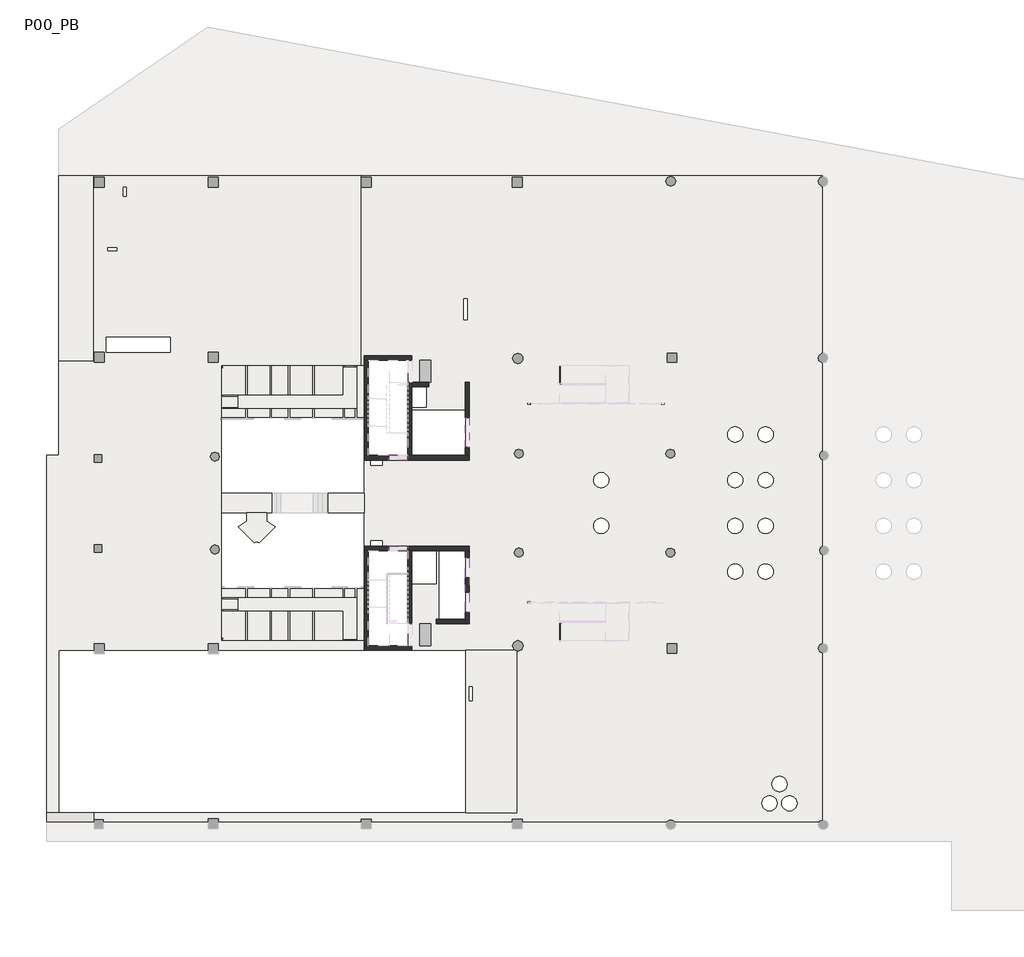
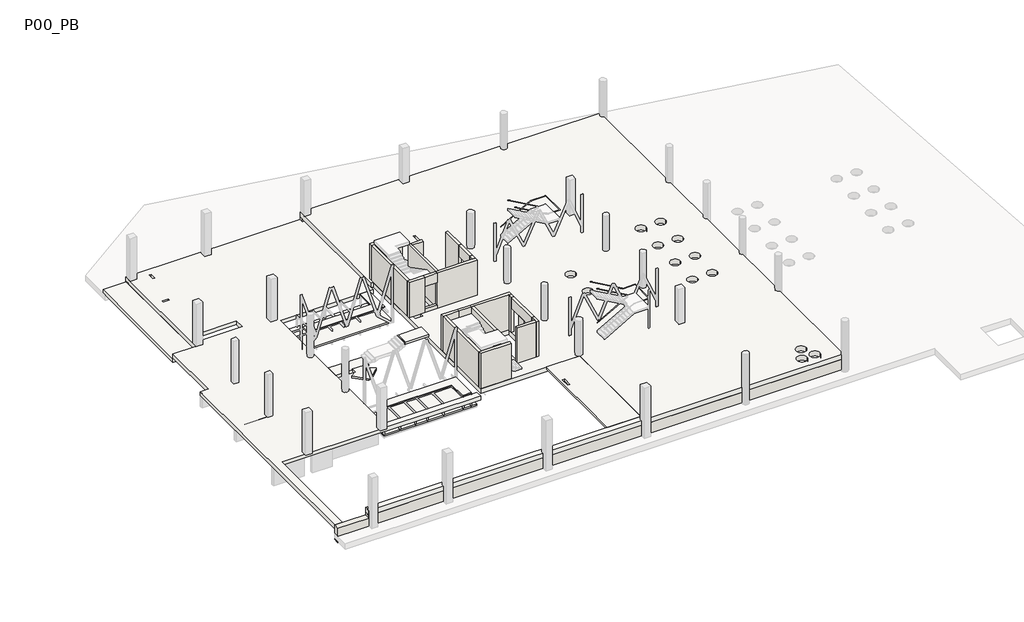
# One storey, part 1 of 7: 29 walls, 11 slabs.
"""IFC4 building model written with IfcOpenShell, lengths in millimetres."""

from ifc_helpers import new_model, si_unit, point, frame, frame_2d, origin, place, context, project, spatial, polyline, circle_curve, trimmed, segment, composite_curve, outline, extrude, faceted_brep, element, save

model = new_model("IFC4")

# Units and contexts
model_context = context("Model", 3, world=origin())
ifc_project = project(units=[si_unit("LENGTHUNIT", "METRE", prefix="MILLI")], contexts=[model_context])

# Site, building, storey
site = spatial("IfcSite", under=ifc_project)
building = spatial("IfcBuilding", under=site)
storey = spatial("IfcBuildingStorey", under=building, Name="P00_PB", Elevation=6330.0)

# Slabs
placement = place(None, origin())
element("IfcSlab", 1, ObjectType="Forjat_Llosa-Formigo-400", at=placement, inside=storey, context=model_context, shape_type="SweptSolid", body=[
    extrude(outline(polyline([(-33717.5141758, 13789.8966063), (-33717.5141758, 25989.9950349), (-31415.2957322, 25989.9950349), (-31415.2957322, 13789.8966053), (-33717.5141758, 13789.8966063)])), frame((0.0, 0.0, 5430.0), z_axis=(0.0, 0.0, 1.0), x_axis=(1.0, 0.0, 0.0)), (0.0, 0.0, 1.0), 400.0),
])
element("IfcSlab", 2, ObjectType="Forjat_Llosa-Formigo-400", at=placement, inside=storey, context=model_context, shape_type="Brep", body=[
    faceted_brep([(-13415.462941, 14164.8951015, 5930.0), (-13640.3216429, 14164.8951015, 5930.0), (-13640.3216429, 13539.4926294, 5930.0), (-23041.1605166, 13539.4926294, 5930.0), (-23041.1563988, -4560.5863355, 5930.0), (-13640.3216429, -4560.5866946, 5930.0), (-13640.3216429, -5185.0959668, 5930.0), (-23241.1835957, -5185.0959668, 5930.0), (-23941.1835957, -5185.0959668, 5930.0), (-33717.5141758, -5185.0959668, 5930.0), (-33717.5141758, -15835.6038397, 5930.0), (-34517.5141758, -15835.6200374, 5930.0), (-34517.5141758, -5185.1039418, 5930.0), (-34517.5141758, -4885.1039418, 5930.0), (-34517.5141758, 7614.8960687, 5930.0), (-33717.5141758, 7614.8960687, 5930.0), (-33717.5141758, 13789.8966063, 5930.0), (-31415.2957364, 13789.8966053, 5930.0), (-31415.2957322, 25989.9950234, 5930.0), (-13415.4630194, 25989.9950234, 5930.0), (-30611.0997857, 14389.4127853, 5930.0), (-26383.0681473, 14389.4127853, 5930.0), (-26383.0681473, 15389.412783, 5930.0), (-30611.0997857, 15389.4127852, 5930.0), (-29894.8189953, 21257.0422309, 5930.0), (-30494.8189944, 21257.0422309, 5930.0), (-30494.8189944, 21057.0422316, 5930.0), (-29894.8189953, 21057.0422316, 5930.0), (-29289.6172828, 25240.3980278, 5930.0), (-29489.6172812, 25240.3980292, 5930.0), (-29489.6172812, 24640.3980294, 5930.0), (-29289.6172828, 24640.3980294, 5930.0), (-13415.462941, 14164.8951015, 6330.0), (-13415.4630194, 25989.9950234, 6330.0), (-31415.2957322, 25989.9950234, 6330.0), (-31415.2957364, 13789.8966053, 6330.0), (-33717.5141758, 13789.8966063, 6330.0), (-33717.5141758, 7614.8960687, 6330.0), (-34517.5141758, 7614.8960687, 6330.0), (-34517.5141758, -15835.6200374, 6330.0), (-33717.5141758, -15835.6038397, 6330.0), (-33717.5141758, -5185.0959668, 6330.0), (-23941.1835957, -5185.0959668, 6330.0), (-23241.1835957, -5185.0959668, 6330.0), (-13640.3216429, -5185.0959668, 6330.0), (-13640.3216429, -4560.5866946, 6330.0), (-23041.1563988, -4560.5863355, 6330.0), (-23041.1605166, 13539.4926294, 6330.0), (-13640.3216429, 13539.4926294, 6330.0), (-13640.3216429, 14164.8951015, 6330.0), (-30611.0997857, 14389.4127853, 6330.0), (-30611.0997857, 15389.4127852, 6330.0), (-26383.0681473, 15389.412783, 6330.0), (-26383.0681473, 14389.4127853, 6330.0), (-29894.8189953, 21257.0422309, 6330.0), (-29894.8189953, 21057.0422316, 6330.0), (-30494.8189944, 21057.0422316, 6330.0), (-30494.8189944, 21257.0422309, 6330.0), (-29289.6172828, 25240.3980278, 6330.0), (-29289.6172828, 24640.3980294, 6330.0), (-29489.6172812, 24640.3980294, 6330.0), (-29489.6172812, 25240.3980292, 6330.0)], [[[0, 1, 2, 3, 4, 5, 6, 7, 8, 9, 10, 11, 12, 13, 14, 15, 16, 17, 18, 19], [20, 21, 22, 23], [24, 25, 26, 27], [28, 29, 30, 31]], [[32, 33, 34, 35, 36, 37, 38, 39, 40, 41, 42, 43, 44, 45, 46, 47, 48, 49], [50, 51, 52, 53], [54, 55, 56, 57], [58, 59, 60, 61]], [[1, 0, 32, 49]], [[4, 3, 47, 46]], [[9, 8, 7, 6, 44, 43, 42, 41]], [[10, 9, 41, 40]], [[19, 18, 34, 33]], [[0, 19, 33, 32]], [[2, 1, 49, 48]], [[3, 2, 48, 47]], [[17, 16, 36, 35]], [[18, 17, 35, 34]], [[21, 20, 50, 53]], [[22, 21, 53, 52]], [[23, 22, 52, 51]], [[20, 23, 51, 50]], [[11, 10, 40, 39]], [[14, 13, 12, 11, 39, 38]], [[15, 14, 38, 37]], [[16, 15, 37, 36]], [[25, 24, 54, 57]], [[26, 25, 57, 56]], [[27, 26, 56, 55]], [[24, 27, 55, 54]], [[29, 28, 58, 61]], [[30, 29, 61, 60]], [[31, 30, 60, 59]], [[28, 31, 59, 58]], [[5, 4, 46, 45]], [[6, 5, 45, 44]]]),
])
element("IfcSlab", 3, ObjectType="Forjat_Llosa-Formigo-500", at=placement, inside=storey, context=model_context, shape_type="SweptSolid", body=[
    extrude(outline(polyline([(16434.7068512, -16434.588401), (-31390.3343784, -16435.5567211), (-31390.3343798, -15835.1021834), (-3640.7876105, -15835.1021939), (-3640.7876105, -5185.1064832), (-13640.2930975, -5185.1067242), (-13640.296314, 13539.3308237), (-13840.4544924, 13539.3342688), (-13840.4586139, 25989.9950039), (16434.2096972, 25989.9950039), (16434.7068512, -16434.588401)]), holes=[polyline([(-10790.2146087, -4885.1039312), (-10790.2146087, 1364.8960692), (-13390.3216429, 1364.8960692), (-13390.3216429, -4885.1039312), (-10790.2146087, -4885.1039312)]), polyline([(-8915.3273673, -795.1004405), (-8915.3273673, 1364.8960692), (-10540.2146087, 1364.8960692), (-10540.2146087, -795.1004405), (-8915.3273673, -795.1004405)]), polyline([(-7015.32737, -3135.1012912), (-7015.32737, 1364.8960692), (-8715.3273692, 1364.8960692), (-8715.3273692, -3135.1012912), (-7015.32737, -3135.1012912)]), polyline([(-10790.2146087, 13864.8960677), (-13390.3216429, 13864.8960677), (-13390.3216429, 7614.8960673), (-10790.2146087, 7614.8960673), (-10790.2146087, 13864.8960677)]), polyline([(-7015.3216444, 10594.8839421), (-10540.2146087, 10594.8839421), (-10540.2146087, 7614.8960673), (-7015.3216444, 7614.8960673), (-7015.3216444, 10594.8839421)]), polyline([(-9575.3241515, 12114.8934277), (-10540.2146087, 12114.8934277), (-10540.2146087, 10794.8973525), (-9575.3241515, 10794.8973525), (-9575.3241515, 12114.8934277)]), composite_curve([segment(trimmed(circle_curve(frame_2d((10709.7788109, -10.2137645)), 500.0000085), [point((10209.7788024, -10.2137645))], [point((11209.7788193, -10.2137645))], True, "CARTESIAN"), True, "CONTINUOUS"), segment(trimmed(circle_curve(frame_2d((10709.7788109, -10.2137645)), 500.0000085), [point((11209.7788193, -10.2137645))], [point((10209.7788024, -10.2137645))], True, "CARTESIAN"), True, "CONTINUOUS")], self_intersect=False), composite_curve([segment(trimmed(circle_curve(frame_2d((12709.7788146, -10.2137636)), 499.9999951), [point((12209.7788195, -10.2137636))], [point((13209.7788097, -10.2137636))], True, "CARTESIAN"), True, "CONTINUOUS"), segment(trimmed(circle_curve(frame_2d((12709.7788146, -10.2137636)), 499.9999951), [point((13209.7788097, -10.2137636))], [point((12209.7788195, -10.2137636))], True, "CARTESIAN"), True, "CONTINUOUS")], self_intersect=False), composite_curve([segment(trimmed(circle_curve(frame_2d((10709.7788168, 2989.7862398)), 500.0000085), [point((10209.7788083, 2989.7862398))], [point((11209.7788252, 2989.7862398))], True, "CARTESIAN"), True, "CONTINUOUS"), segment(trimmed(circle_curve(frame_2d((10709.7788168, 2989.7862398)), 500.0000085), [point((11209.7788252, 2989.7862398))], [point((10209.7788083, 2989.7862398))], True, "CARTESIAN"), True, "CONTINUOUS")], self_intersect=False), composite_curve([segment(trimmed(circle_curve(frame_2d((12709.7788205, 2989.7862406)), 499.9999951), [point((12209.7788253, 2989.7862406))], [point((13209.7788156, 2989.7862406))], True, "CARTESIAN"), True, "CONTINUOUS"), segment(trimmed(circle_curve(frame_2d((12709.7788205, 2989.7862406)), 499.9999951), [point((13209.7788156, 2989.7862406))], [point((12209.7788253, 2989.7862406))], True, "CARTESIAN"), True, "CONTINUOUS")], self_intersect=False), composite_curve([segment(trimmed(circle_curve(frame_2d((10709.7788128, 5989.7862352)), 500.0000085), [point((10209.7788043, 5989.7862352))], [point((11209.7788212, 5989.7862352))], True, "CARTESIAN"), True, "CONTINUOUS"), segment(trimmed(circle_curve(frame_2d((10709.7788128, 5989.7862352)), 500.0000085), [point((11209.7788212, 5989.7862352))], [point((10209.7788043, 5989.7862352))], True, "CARTESIAN"), True, "CONTINUOUS")], self_intersect=False), composite_curve([segment(trimmed(circle_curve(frame_2d((12709.7788165, 5989.786236)), 499.9999951), [point((12209.7788214, 5989.786236))], [point((13209.7788117, 5989.786236))], True, "CARTESIAN"), True, "CONTINUOUS"), segment(trimmed(circle_curve(frame_2d((12709.7788165, 5989.786236)), 499.9999951), [point((13209.7788117, 5989.786236))], [point((12209.7788214, 5989.786236))], True, "CARTESIAN"), True, "CONTINUOUS")], self_intersect=False), composite_curve([segment(trimmed(circle_curve(frame_2d((10709.7788165, 8989.7862344)), 500.0000085), [point((10209.778808, 8989.7862344))], [point((11209.7788249, 8989.7862344))], True, "CARTESIAN"), True, "CONTINUOUS"), segment(trimmed(circle_curve(frame_2d((10709.7788165, 8989.7862344)), 500.0000085), [point((11209.7788249, 8989.7862344))], [point((10209.778808, 8989.7862344))], True, "CARTESIAN"), True, "CONTINUOUS")], self_intersect=False), composite_curve([segment(trimmed(circle_curve(frame_2d((12709.7788202, 8989.7862352)), 499.9999951), [point((12209.7788251, 8989.7862352))], [point((13209.7788153, 8989.7862352))], True, "CARTESIAN"), True, "CONTINUOUS"), segment(trimmed(circle_curve(frame_2d((12709.7788202, 8989.7862352)), 499.9999951), [point((13209.7788153, 8989.7862352))], [point((12209.7788251, 8989.7862352))], True, "CARTESIAN"), True, "CONTINUOUS")], self_intersect=False), polyline([(-6900.2939556, 17917.6304307), (-7108.3213631, 17917.6304307), (-7108.3213631, 16519.3296688), (-6900.2939556, 16519.3296688), (-6900.2939556, 17917.6304307)]), polyline([(-12465.3183689, 7314.889142), (-13215.3183665, 7314.889142), (-13215.3183665, 6964.889144), (-12465.3183689, 6964.889144), (-12465.3183689, 7314.889142)]), polyline([(-12465.3183669, 2014.8972615), (-13215.3183695, 2014.8972615), (-13215.3183695, 1664.8972602), (-12465.3183669, 1664.8972602), (-12465.3183669, 2014.8972615)]), composite_curve([segment(trimmed(circle_curve(frame_2d((1909.1795935, 5989.6531787)), 500.0000085), [point((1409.1795851, 5989.6531787))], [point((2409.179602, 5989.6531787))], True, "CARTESIAN"), True, "CONTINUOUS"), segment(trimmed(circle_curve(frame_2d((1909.1795935, 5989.6531787)), 500.0000085), [point((2409.179602, 5989.6531787))], [point((1409.1795851, 5989.6531787))], True, "CARTESIAN"), True, "CONTINUOUS")], self_intersect=False), composite_curve([segment(trimmed(circle_curve(frame_2d((1909.1795935, 2989.8983731)), 500.0000085), [point((1409.1795851, 2989.8983731))], [point((2409.179602, 2989.8983731))], True, "CARTESIAN"), True, "CONTINUOUS"), segment(trimmed(circle_curve(frame_2d((1909.1795935, 2989.8983731)), 500.0000085), [point((2409.179602, 2989.8983731))], [point((1409.1795851, 2989.8983731))], True, "CARTESIAN"), True, "CONTINUOUS")], self_intersect=False), composite_curve([segment(trimmed(circle_curve(frame_2d((12967.467369, -15227.8059155)), 500.0), [point((12467.467369, -15227.8059155))], [point((13467.467369, -15227.8059155))], True, "CARTESIAN"), True, "CONTINUOUS"), segment(trimmed(circle_curve(frame_2d((12967.467369, -15227.8059155)), 500.0), [point((13467.467369, -15227.8059155))], [point((12467.467369, -15227.8059155))], True, "CARTESIAN"), True, "CONTINUOUS")], self_intersect=False), composite_curve([segment(trimmed(circle_curve(frame_2d((14273.3697299, -15227.8059234)), 500.0), [point((14773.3697299, -15227.8059234))], [point((13773.3697299, -15227.8059234))], True, "CARTESIAN"), True, "CONTINUOUS"), segment(trimmed(circle_curve(frame_2d((14273.3697299, -15227.8059234)), 500.0), [point((13773.3697299, -15227.8059234))], [point((14773.3697299, -15227.8059234))], True, "CARTESIAN"), True, "CONTINUOUS")], self_intersect=False), composite_curve([segment(trimmed(circle_curve(frame_2d((13620.418188, -13964.2705682)), 500.0), [point((14120.418188, -13964.2705682))], [point((13120.418188, -13964.2705682))], True, "CARTESIAN"), True, "CONTINUOUS"), segment(trimmed(circle_curve(frame_2d((13620.418188, -13964.2705682)), 500.0), [point((13120.418188, -13964.2705682))], [point((14120.418188, -13964.2705682))], True, "CARTESIAN"), True, "CONTINUOUS")], self_intersect=False)]), frame((0.0, 0.0, 6600.0), z_axis=(0.0, 0.0, 1.0), x_axis=(1.0, 0.0, 0.0)), (0.0, 0.0, 1.0), 500.0),
])
element("IfcSlab", 4, ObjectType="Forjat_Llosa-Formigo-200", at=placement, inside=storey, context=model_context, shape_type="SweptSolid", body=[
    extrude(outline(polyline([(-3640.7876105, -5185.1064832), (-3640.7876105, -15835.1021939), (-6995.3215622, -15835.1021926), (-6995.3215602, -5185.106564), (-3640.7876105, -5185.1064832)]), holes=[polyline([(-6557.2945116, -7582.1760673), (-6765.3215587, -7582.1760673), (-6765.3215587, -8498.2096027), (-6557.2945116, -8498.2096027), (-6557.2945116, -7582.1760673)])]), frame((0.0, 0.0, 6900.0), z_axis=(0.0, 0.0, 1.0), x_axis=(1.0, 0.0, 0.0)), (0.0, 0.0, 1.0), 200.0),
])
element("IfcSlab", 5, ObjectType="Forjat_Llosa-Formigo-300", at=placement, inside=storey, context=model_context, shape_type="SweptSolid", body=[
    extrude(outline(polyline([(-19703.873546, 5139.8961327), (-19703.8735473, 3839.8960682), (-23041.1837398, 3839.8960682), (-23041.1840354, 5139.8960682), (-19703.873546, 5139.8961327)])), frame((0.0, 0.0, 6030.0), z_axis=(0.0, 0.0, 1.0), x_axis=(1.0, 0.0, 0.0)), (0.0, 0.0, 1.0), 300.0),
])
element("IfcSlab", 6, ObjectType="Forjat_Llosa-Formigo-200", at=placement, inside=storey, context=model_context, shape_type="SweptSolid", body=[
    extrude(outline(polyline([(-16083.8735458, 3839.8960682), (-16083.8735458, 5139.8962028), (-13640.2948711, 5139.8962028), (-13640.2946478, 3839.8960682), (-16083.8735458, 3839.8960682)])), frame((0.0, 0.0, 7210.0), z_axis=(0.0, 0.0, 1.0), x_axis=(1.0, 0.0, 0.0)), (0.0, 0.0, 1.0), 200.0),
])
element("IfcSlab", 7, ObjectType="Forjat_Llosa-Formigo-200", at=placement, inside=storey, context=model_context, shape_type="SweptSolid", body=[
    extrude(outline(composite_curve([segment(polyline([(-21363.8688005, 3839.896053), (-20043.8735817, 3839.8960834), (-20043.873802, 3312.1045462)]), True, "CONTINUOUS"), segment(trimmed(circle_curve(frame_2d((-20703.874426, 1707.5409181)), 1735.000075), [point((-20043.873802, 3312.1045462))], [point((-19481.4925498, 2938.803607))], False, "CARTESIAN"), True, "CONTINUOUS"), segment(polyline([(-19481.4925498, 2938.803607), (-20542.8818933, 1869.6944526)]), True, "CONTINUOUS"), segment(trimmed(circle_curve(frame_2d((-20703.8740218, 1707.5407826)), 228.5000615), [point((-20542.8818933, 1869.6944526))], [point((-20866.0276916, 1868.5329113))], True, "CARTESIAN"), True, "CONTINUOUS"), segment(polyline([(-20866.0276916, 1868.5329113), (-21935.1372518, 2929.9226563)]), True, "CONTINUOUS"), segment(trimmed(circle_curve(frame_2d((-20703.874426, 1707.5409181)), 1735.000075), [point((-21935.1372518, 2929.9226563))], [point((-21363.874066, 3312.1049509))], False, "CARTESIAN"), True, "CONTINUOUS"), segment(polyline([(-21363.874066, 3312.1049509), (-21363.8688005, 3839.896053)]), True, "CONTINUOUS")], self_intersect=False)), frame((0.0, 0.0, 6230.0), z_axis=(0.0, 0.0, 1.0), x_axis=(1.0, 0.0, 0.0)), (0.0, 0.0, 1.0), 200.0),
])
element("IfcSlab", 8, ObjectType="Forjat_Llosa-Formigo-150", at=placement, inside=storey, context=model_context, shape_type="SweptSolid", body=[
    extrude(outline(polyline([(-23041.1605166, 13539.4926294), (-13640.3216429, 13539.4926294), (-13640.3216429, 10115.3788981), (-23041.1597376, 10115.3791966), (-23041.1605166, 13539.4926294)])), frame((0.0, 0.0, 4940.0), z_axis=(0.0, 0.0, 1.0), x_axis=(1.0, 0.0, 0.0)), (0.0, 0.0, 1.0), 150.0),
])
element("IfcSlab", 9, ObjectType="Forjat_Llosa-Relliga-100", at=placement, inside=storey, context=model_context, shape_type="SweptSolid", body=[
    extrude(outline(polyline([(-21915.4459309, -2583.0874625), (-21915.4459314, -1728.0871839), (-14149.4459331, -1728.0871839), (-14149.4459331, -4439.621344), (-15031.4459326, -4439.621344), (-15031.4459326, -2583.0874625), (-21915.4459309, -2583.0874625)])), frame((0.0, 0.0, 6330.0), z_axis=(0.0, 0.0, 1.0), x_axis=(1.0, 0.0, 0.0)), (0.0, 0.0, 1.0), 100.0),
])
element("IfcSlab", 10, ObjectType="Forjat_Llosa-Relliga-100", at=placement, inside=storey, context=model_context, shape_type="SweptSolid", body=[
    extrude(outline(polyline([(-21915.4459309, 11562.8793206), (-15031.4459326, 11562.8793206), (-15031.4459326, 13419.4132021), (-14149.4459331, 13419.4132021), (-14149.4459331, 10707.879042), (-21915.4459314, 10707.879042), (-21915.4459309, 11562.8793206)])), frame((0.0, 0.0, 6330.0), z_axis=(0.0, 0.0, 1.0), x_axis=(1.0, 0.0, 0.0)), (0.0, 0.0, 1.0), 100.0),
])
element("IfcSlab", 11, ObjectType="Forjat_Llosa-Formigo-150", at=placement, inside=storey, context=model_context, shape_type="SweptSolid", body=[
    extrude(outline(polyline([(-23041.1605166, -4559.7004929), (-23041.1597376, -1135.5870602), (-13640.3216429, -1135.5867616), (-13640.3216429, -4559.7004929), (-23041.1605166, -4559.7004929)])), frame((0.0, 0.0, 4940.0), z_axis=(0.0, 0.0, 1.0), x_axis=(1.0, 0.0, 0.0)), (0.0, 0.0, 1.0), 150.0),
])

# Walls
element("IfcWall", 12, ObjectType="0_Muro Concreto_250", at=placement, inside=storey, context=model_context, shape_type="Brep", body=[
    faceted_brep([(-13640.3216429, 13864.8960687, 7100.0), (-13640.3216429, 7614.8960673, 7100.0), (-13640.3216429, 7614.8960673, 10860.0), (-13640.3216429, 13539.4134441, 10860.0), (-13640.3216429, 13864.8960687, 10860.0), (-13390.3216429, 13864.8960687, 7100.0), (-13390.3216429, 13864.8960687, 10610.0), (-13390.3216429, 13864.8960687, 10860.0), (-13390.3216429, 13539.4134441, 10860.0), (-13390.3216429, 7614.8960673, 10860.0), (-13390.3216429, 7614.8960673, 7100.0)], [[[0, 1, 2, 3, 4]], [[5, 6, 7, 8, 9, 10]], [[1, 0, 5, 10]], [[4, 3, 2, 9, 8, 7]], [[0, 4, 7, 6, 5]], [[2, 1, 10, 9]]]),
])
element("IfcWall", 13, ObjectType="0_Muro Concreto_250", at=placement, inside=storey, context=model_context, shape_type="Brep", body=[
    faceted_brep([(-10790.2146087, 12414.8934136, 7100.0), (-10790.2146087, 7614.8960673, 7100.0), (-10790.2146087, 7614.8960673, 10860.0), (-10790.2146087, 12414.8934136, 10860.0), (-10540.2146087, 12414.8934136, 7100.0), (-10540.2146087, 12414.8934136, 10860.0), (-10540.2146087, 12114.8934136, 10860.0), (-10540.2146087, 7614.8960673, 10860.0), (-10540.2146087, 7614.8960673, 7100.0), (-10540.2146087, 12114.8934136, 7100.0)], [[[0, 1, 2, 3]], [[4, 5, 6, 7, 8, 9]], [[1, 0, 4, 9, 8]], [[3, 2, 7, 6, 5]], [[0, 3, 5, 4]], [[1, 8, 7, 2]]]),
])
element("IfcWall", 14, ObjectType="0_Muro Concreto_250", at=placement, inside=storey, context=model_context, shape_type="Brep", body=[
    faceted_brep([(-13390.3216429, -4885.1039323, 7100.0), (-13390.3216429, 1364.8960692, 7100.0), (-13390.3216429, 1364.8960692, 10860.0), (-13390.3216429, -4560.5861501, 10860.0), (-13390.3216429, -4885.1039323, 10860.0), (-13390.3216429, -4885.1039323, 10610.0), (-13640.3216429, -4885.1039323, 7100.0), (-13640.3216429, -4885.1039323, 10860.0), (-13640.3216429, -4560.5861501, 10860.0), (-13640.3216429, 1364.8960692, 10860.0), (-13640.3216429, 1364.8960692, 7100.0)], [[[0, 1, 2, 3, 4, 5]], [[6, 7, 8, 9, 10]], [[1, 0, 6, 10]], [[4, 3, 2, 9, 8, 7]], [[0, 5, 4, 7, 6]], [[2, 1, 10, 9]]]),
])
element("IfcWall", 15, ObjectType="0_Muro Concreto_250", at=placement, inside=storey, context=model_context, shape_type="SweptSolid", body=[
    extrude(outline(polyline([(-10540.2146087, 1364.8960692), (-10540.2146087, -3435.1012772), (-10790.2146087, -3435.1012772), (-10790.2146087, 1364.8960692), (-10540.2146087, 1364.8960692)])), frame((0.0, 0.0, 7100.0), z_axis=(0.0, 0.0, 1.0), x_axis=(1.0, 0.0, 0.0)), (0.0, 0.0, 1.0), 3760.0),
])
element("IfcWall", 16, ObjectType="0_Muro Concreto_250", at=placement, inside=storey, context=model_context, shape_type="Brep", body=[
    faceted_brep([(-7015.3215886, 12414.8934351, 7100.0), (-7015.3215909, 10084.2914836, 7100.0), (-7015.3215909, 10084.2914836, 9710.0), (-7015.3215909, 10084.2914836, 10860.0), (-7015.3215886, 12414.8934351, 10860.0), (-6765.3215886, 12414.8934349, 7100.0), (-6765.3215886, 12414.8934349, 10860.0), (-6765.3215909, 10084.2914833, 10860.0), (-6765.3215909, 10084.2914833, 9710.0), (-6765.3215909, 10084.2914833, 7100.0)], [[[0, 1, 2, 3, 4]], [[5, 6, 7, 8, 9]], [[1, 0, 5, 9]], [[3, 2, 1, 9, 8, 7]], [[4, 3, 7, 6]], [[0, 4, 6, 5]]]),
])
element("IfcWall", 17, ObjectType="0_Muro Concreto_250", at=placement, inside=storey, context=model_context, shape_type="Brep", body=[
    faceted_brep([(-7015.3216444, 8144.2911718, 7100.0), (-7015.3216444, 7614.8960673, 7100.0), (-7015.3216444, 7614.8960673, 10860.0), (-7015.3216444, 8144.2911718, 10860.0), (-7015.3216444, 8144.2911718, 9710.0), (-6765.3216444, 8144.2911718, 7100.0), (-6765.3216444, 8144.2911718, 9710.0), (-6765.3216444, 8144.2911718, 10860.0), (-6765.3216444, 7614.8960673, 10860.0), (-6765.3216444, 7614.8960673, 7100.0)], [[[0, 1, 2, 3, 4]], [[5, 6, 7, 8, 9]], [[1, 0, 5, 9]], [[2, 1, 9, 8]], [[3, 2, 8, 7]], [[0, 4, 3, 7, 6, 5]]]),
])
element("IfcWall", 18, ObjectType="0_Muro Concreto_250", at=placement, inside=storey, context=model_context, shape_type="SweptSolid", body=[
    extrude(outline(polyline([(-6765.3247837, -405.0894087), (-6765.3247837, -1365.1031796), (-7015.3247837, -1365.1031796), (-7015.3247837, -405.0894087), (-6765.3247837, -405.0894087)])), frame((0.0, 0.0, 7100.0), z_axis=(0.0, 0.0, 1.0), x_axis=(1.0, 0.0, 0.0)), (0.0, 0.0, 1.0), 2610.0),
])
element("IfcWall", 19, ObjectType="0_Muro Concreto_250", at=placement, inside=storey, context=model_context, shape_type="SweptSolid", body=[
    extrude(outline(polyline([(-6765.3216444, 1364.8960692), (-6765.3247835, 894.9105912), (-7015.3247835, 894.912261), (-7015.3216444, 1364.897739), (-6765.3216444, 1364.8960692)])), frame((0.0, 0.0, 7100.0), z_axis=(0.0, 0.0, 1.0), x_axis=(1.0, 0.0, 0.0)), (0.0, 0.0, 1.0), 3760.0),
])
element("IfcWall", 20, ObjectType="0_Muro Concreto_250", at=placement, inside=storey, context=model_context, shape_type="Brep", body=[
    faceted_brep([(-6765.3247845, -3435.1012772, 7100.0), (-6765.3247845, -2665.1031808, 7100.0), (-6765.3247845, -2665.1031808, 9710.0), (-6765.3247845, -2665.1031808, 10860.0), (-6765.3247845, -3435.1012772, 10860.0), (-7015.3247845, -3435.1012772, 7100.0), (-7015.3247845, -3435.1012772, 10860.0), (-7015.3247845, -3135.1012772, 10860.0), (-7015.3247845, -2665.1031808, 10860.0), (-7015.3247845, -2665.1031808, 9710.0), (-7015.3247845, -2665.1031808, 7100.0), (-7015.3247845, -3135.1012772, 7100.0)], [[[0, 1, 2, 3, 4]], [[5, 6, 7, 8, 9, 10, 11]], [[1, 0, 5, 11, 10]], [[3, 2, 1, 10, 9, 8]], [[4, 3, 8, 7, 6]], [[0, 4, 6, 5]]]),
])
element("IfcWall", 21, ObjectType="0_Muro Concreto_250", at=placement, inside=storey, context=model_context, shape_type="Brep", body=[
    faceted_brep([(-6765.3247837, -2665.1031808, 9710.0), (-6765.3247837, -1365.1031796, 9710.0), (-6765.3247837, -405.0894087, 9710.0), (-6765.3247837, 894.9114261, 9710.0), (-6765.3247837, 894.9114261, 10860.0), (-6765.3247837, -2665.1031808, 10860.0), (-7015.3247837, -2665.1031808, 9710.0), (-7015.3247837, -2665.1031808, 10860.0), (-7015.3247837, 894.9114261, 10860.0), (-7015.3247837, 894.9114261, 9710.0), (-7015.3247837, -405.0894087, 9710.0), (-7015.3247837, -1365.1031796, 9710.0)], [[[0, 1, 2, 3, 4, 5]], [[6, 7, 8, 9, 10, 11]], [[3, 2, 1, 0, 6, 11, 10, 9]], [[4, 3, 9, 8]], [[5, 4, 8, 7]], [[0, 5, 7, 6]]]),
])
element("IfcWall", 22, ObjectType="0_Muro Concreto_250", at=placement, inside=storey, context=model_context, shape_type="SweptSolid", body=[
    extrude(outline(polyline([(-7015.3216444, 8144.2911718), (-7015.3216444, 10084.2914835), (-6765.3216444, 10084.2914835), (-6765.3216444, 8144.2911718), (-7015.3216444, 8144.2911718)])), frame((0.0, 0.0, 9710.0), z_axis=(0.0, 0.0, 1.0), x_axis=(1.0, 0.0, 0.0)), (0.0, 0.0, 1.0), 1150.0),
])
element("IfcWall", 23, ObjectType="0_Muro Concreto_300", at=placement, inside=storey, context=model_context, shape_type="Brep", body=[
    faceted_brep([(-6768.0437821, 7614.8960673, 7100.0), (-10540.2146087, 7614.8960673, 7100.0), (-10790.2146087, 7614.8960673, 7100.0), (-10790.2146087, 7614.8960673, 7460.0), (-10790.2146087, 7614.8960673, 9866.25), (-10790.2146087, 7614.8960673, 10860.0), (-10540.2146087, 7614.8960673, 10860.0), (-6768.0437821, 7614.8960673, 10860.0), (-6768.0437821, 7314.8960673, 7100.0), (-6768.0437821, 7314.8960673, 10860.0), (-10790.2146087, 7314.8960673, 10860.0), (-10790.2146087, 7314.8960673, 9866.25), (-10790.2146087, 7314.8960673, 7460.0), (-10790.2146087, 7314.8960673, 7100.0)], [[[0, 1, 2, 3, 4, 5, 6, 7]], [[8, 9, 10, 11, 12, 13]], [[2, 1, 0, 8, 13]], [[7, 6, 5, 10, 9]], [[0, 7, 9, 8]], [[2, 13, 12, 11, 10, 5, 4, 3]]]),
])
element("IfcWall", 24, ObjectType="0_Muro Concreto_300", at=placement, inside=storey, context=model_context, shape_type="Brep", body=[
    faceted_brep([(-10540.3248355, 14164.8960687, 7100.0), (-13640.3216429, 14164.8960687, 7100.0), (-13640.3216429, 14164.8960687, 10610.0), (-13640.3216429, 14164.8960687, 10860.0), (-10540.3248355, 14164.8960687, 10860.0), (-10540.3248355, 14164.8960687, 10610.0), (-10540.3248355, 13864.8960687, 7100.0), (-10540.3248355, 13864.8960687, 10610.0), (-10540.3248355, 13864.8960687, 10860.0), (-13390.3216429, 13864.8960687, 10860.0), (-13640.3216429, 13864.8960687, 10860.0), (-13640.3216429, 13864.8960687, 7100.0), (-13390.3216429, 13864.8960687, 7100.0)], [[[0, 1, 2, 3, 4, 5]], [[6, 7, 8, 9, 10, 11, 12]], [[1, 0, 6, 12, 11]], [[4, 3, 10, 9, 8]], [[0, 5, 4, 8, 7, 6]], [[3, 2, 1, 11, 10]]]),
])
element("IfcWall", 25, ObjectType="0_Muro Concreto_300", at=placement, inside=storey, context=model_context, shape_type="SweptSolid", body=[
    extrude(outline(polyline([(-9415.5635412, 12114.8934136), (-10540.2146087, 12114.8934136), (-10540.2146087, 12414.8934136), (-9415.5635412, 12414.8934136), (-9415.5635412, 12114.8934136)])), frame((0.0, 0.0, 7100.0), z_axis=(0.0, 0.0, 1.0), x_axis=(1.0, 0.0, 0.0)), (0.0, 0.0, 1.0), 3760.0),
])
element("IfcWall", 26, ObjectType="0_Muro Concreto_300", at=placement, inside=storey, context=model_context, shape_type="Brep", body=[
    faceted_brep([(-6768.0437821, 1664.8960692, 7100.0), (-10790.2146087, 1664.8960692, 7100.0), (-10790.2146087, 1664.8960692, 7460.0), (-10790.2146087, 1664.8960692, 9866.25), (-10790.2146087, 1664.8960692, 10860.0), (-6768.0437821, 1664.8960692, 10860.0), (-6768.0437821, 1364.8960692, 7100.0), (-6768.0437821, 1364.8960692, 10860.0), (-10540.2146087, 1364.8960692, 10860.0), (-10790.2146087, 1364.8960692, 10860.0), (-10790.2146087, 1364.8960692, 9866.25), (-10790.2146087, 1364.8960692, 7460.0), (-10790.2146087, 1364.8960692, 7100.0), (-10540.2146087, 1364.8960692, 7100.0)], [[[0, 1, 2, 3, 4, 5]], [[6, 7, 8, 9, 10, 11, 12, 13]], [[1, 0, 6, 13, 12]], [[5, 4, 9, 8, 7]], [[0, 5, 7, 6]], [[1, 12, 11, 10, 9, 4, 3, 2]]]),
])
element("IfcWall", 27, ObjectType="0_Muro Concreto_300", at=placement, inside=storey, context=model_context, shape_type="Brep", body=[
    faceted_brep([(-10540.3248425, -4885.1039323, 7100.0), (-13390.3216429, -4885.1039323, 7100.0), (-13640.3216429, -4885.1039323, 7100.0), (-13640.3216429, -4885.1039323, 10860.0), (-13390.3216429, -4885.1039323, 10860.0), (-10540.3248425, -4885.1039323, 10860.0), (-10540.3248425, -4885.1039323, 10610.0), (-10540.3248425, -5185.1039323, 7100.0), (-10540.3248425, -5185.1039323, 10610.0), (-10540.3248425, -5185.1039323, 10860.0), (-13640.3216429, -5185.1039323, 10860.0), (-13640.3216429, -5185.1039323, 10610.0), (-13640.3216429, -5185.1039323, 7100.0)], [[[0, 1, 2, 3, 4, 5, 6]], [[7, 8, 9, 10, 11, 12]], [[2, 1, 0, 7, 12]], [[5, 4, 3, 10, 9]], [[0, 6, 5, 9, 8, 7]], [[3, 2, 12, 11, 10]]]),
])
element("IfcWall", 28, ObjectType="0_Muro Concreto_300", at=placement, inside=storey, context=model_context, shape_type="SweptSolid", body=[
    extrude(outline(polyline([(-7015.3247845, -3435.1012772), (-8915.3273666, -3435.1012772), (-8915.3273666, -3135.1012772), (-7015.3247845, -3135.1012772), (-7015.3247845, -3435.1012772)])), frame((0.0, 0.0, 7100.0), z_axis=(0.0, 0.0, 1.0), x_axis=(1.0, 0.0, 0.0)), (0.0, 0.0, 1.0), 3760.0),
])
element("IfcWall", 29, ObjectType="0_Muro Concreto_300", at=placement, inside=storey, context=model_context, shape_type="SweptSolid", body=[
    extrude(outline(polyline([(-12040.2146087, 1664.8960692), (-10790.2146087, 1664.8960692), (-10790.2146087, 1364.8960692), (-12040.2146087, 1364.8960692), (-12040.2146087, 1664.8960692)])), frame((0.0, 0.0, 9866.25), z_axis=(0.0, 0.0, 1.0), x_axis=(1.0, 0.0, 0.0)), (0.0, 0.0, 1.0), 993.75),
])
element("IfcWall", 30, ObjectType="0_Muro Concreto_300", at=placement, inside=storey, context=model_context, shape_type="Brep", body=[
    faceted_brep([(-12040.2146087, 7614.8960673, 10860.0), (-12040.2146087, 7614.8960673, 9866.25), (-12040.2146087, 7614.8960673, 7460.0), (-12040.2146087, 7614.8960673, 7100.0), (-13390.3216429, 7614.8960673, 7100.0), (-13640.3216429, 7614.8960673, 7100.0), (-13640.3216429, 7614.8960673, 10860.0), (-13515.3216429, 7614.8960673, 10860.0), (-13390.3216429, 7614.8960673, 10860.0), (-13215.3216429, 7614.8960673, 10860.0), (-12040.2146087, 7314.8960673, 7100.0), (-12040.2146087, 7314.8960673, 7460.0), (-12040.2146087, 7314.8960673, 9866.25), (-12040.2146087, 7314.8960673, 10860.0), (-13640.3216429, 7314.8960673, 10860.0), (-13640.3216429, 7314.8960673, 7100.0)], [[[0, 1, 2, 3, 4, 5, 6, 7, 8, 9]], [[10, 11, 12, 13, 14, 15]], [[5, 4, 3, 10, 15]], [[0, 9, 8, 7, 6, 14, 13]], [[6, 5, 15, 14]], [[0, 13, 12, 11, 10, 3, 2, 1]]]),
])
element("IfcWall", 31, ObjectType="0_Muro Concreto_300", at=placement, inside=storey, context=model_context, shape_type="Brep", body=[
    faceted_brep([(-12040.2146087, 1664.8960692, 10860.0), (-12040.2146087, 1664.8960692, 9866.25), (-12040.2146087, 1664.8960692, 7460.0), (-12040.2146087, 1664.8960692, 7100.0), (-13640.3216429, 1664.8960692, 7100.0), (-13640.3216429, 1664.8960692, 10860.0), (-12040.2146087, 1364.8960692, 7100.0), (-12040.2146087, 1364.8960692, 7460.0), (-12040.2146087, 1364.8960692, 9866.25), (-12040.2146087, 1364.8960692, 10860.0), (-13215.3216429, 1364.8960692, 10860.0), (-13390.3216429, 1364.8960692, 10860.0), (-13515.3216429, 1364.8960692, 10860.0), (-13640.3216429, 1364.8960692, 10860.0), (-13640.3216429, 1364.8960692, 7100.0), (-13390.3216429, 1364.8960692, 7100.0)], [[[0, 1, 2, 3, 4, 5]], [[6, 7, 8, 9, 10, 11, 12, 13, 14, 15]], [[4, 3, 6, 15, 14]], [[0, 5, 13, 12, 11, 10, 9]], [[5, 4, 14, 13]], [[0, 9, 8, 7, 6, 3, 2, 1]]]),
])
element("IfcWall", 32, ObjectType="0_Muro Concreto_300", at=placement, inside=storey, context=model_context, shape_type="SweptSolid", body=[
    extrude(outline(polyline([(-12040.2146087, 7614.8960673), (-10790.2146087, 7614.8960673), (-10790.2146087, 7314.8960673), (-12040.2146087, 7314.8960673), (-12040.2146087, 7614.8960673)])), frame((0.0, 0.0, 9866.25), z_axis=(0.0, 0.0, 1.0), x_axis=(1.0, 0.0, 0.0)), (0.0, 0.0, 1.0), 993.75),
])
element("IfcWall", 33, ObjectType="0_Muro Concreto_300", at=placement, inside=storey, context=model_context, shape_type="SweptSolid", body=[
    extrude(outline(polyline([(-12040.2146087, 1664.8960692), (-10790.2146087, 1664.8960692), (-10790.2146087, 1364.8960692), (-12040.2146087, 1364.8960692), (-12040.2146087, 1664.8960692)])), frame((0.0, 0.0, 7100.0), z_axis=(0.0, 0.0, 1.0), x_axis=(1.0, 0.0, 0.0)), (0.0, 0.0, 1.0), 360.0),
])
element("IfcWall", 34, ObjectType="0_Muro Concreto_300", at=placement, inside=storey, context=model_context, shape_type="SweptSolid", body=[
    extrude(outline(polyline([(-12040.2146087, 7614.8960673), (-10790.2146087, 7614.8960673), (-10790.2146087, 7314.8960673), (-12040.2146087, 7314.8960673), (-12040.2146087, 7614.8960673)])), frame((0.0, 0.0, 7100.0), z_axis=(0.0, 0.0, 1.0), x_axis=(1.0, 0.0, 0.0)), (0.0, 0.0, 1.0), 360.0),
])
element("IfcWall", 35, ObjectType="0_Muro Concreto_400", at=placement, inside=storey, context=model_context, shape_type="Brep", body=[
    faceted_brep([(16434.2096972, 25989.9950291, 5480.0), (-13840.4585477, 25989.9950291, 5480.0), (-13840.4585477, 25989.9950291, 6600.0), (16434.2096972, 25989.9950291, 6600.0), (16434.2143846, 25589.9950291, 5480.0), (16434.2143846, 25589.9950291, 6600.0), (15834.2143846, 25589.9950291, 6600.0), (6809.6783556, 25589.9950291, 6600.0), (6159.6783556, 25589.9950291, 6600.0), (-3266.6336851, 25589.9950291, 6600.0), (-3966.6336851, 25589.9950291, 6600.0), (-13140.3365036, 25589.9950291, 6600.0), (-13840.4585477, 25589.9950291, 6600.0), (-13840.4585477, 25589.9950291, 5930.0), (-13840.4585477, 25589.9950291, 5480.0), (-13140.3365036, 25589.9950291, 5480.0), (-3966.6336851, 25589.9950291, 5480.0), (-3266.6336851, 25589.9950291, 5480.0), (6159.6783556, 25589.9950291, 5480.0), (6809.6783556, 25589.9950291, 5480.0), (15834.2143846, 25589.9950291, 5480.0), (16434.2103345, 25935.6130606, 5480.0), (-13840.4585477, 25889.4133082, 6600.0), (16434.2103345, 25935.6130606, 6600.0)], [[[0, 1, 2, 3]], [[4, 5, 6, 7, 8, 9, 10, 11, 12, 13, 14, 15, 16, 17, 18, 19, 20]], [[1, 0, 21, 4, 20, 19, 18, 17, 16, 15, 14]], [[2, 1, 14, 13, 12, 22]], [[3, 2, 22, 12, 11, 10, 9, 8, 7, 6, 5, 23]], [[0, 3, 23, 5, 4, 21]]]),
])
element("IfcWall", 36, ObjectType="0_Muro Concreto_400", at=placement, inside=storey, context=model_context, shape_type="Brep", body=[
    faceted_brep([(-13840.4586802, 25989.9950291, 5480.0), (-31415.2957323, 25989.9950291, 5480.0), (-31415.2957323, 25989.9950291, 5930.0), (-13840.4586802, 25989.9950291, 5930.0), (-13840.4586802, 25589.9950291, 5480.0), (-13840.4586802, 25589.9950291, 5930.0), (-13890.3365036, 25589.9950291, 5930.0), (-23241.1831433, 25589.9950291, 5930.0), (-23941.1831433, 25589.9950291, 5930.0), (-30691.2187251, 25589.9950291, 5930.0), (-31391.2187251, 25589.9950291, 5930.0), (-31415.2957323, 25589.9950291, 5930.0), (-31415.2957323, 25589.9950291, 5480.0), (-31391.2187251, 25589.9950291, 5480.0), (-30691.2187251, 25589.9950291, 5480.0), (-23941.1831433, 25589.9950291, 5480.0), (-23241.1831433, 25589.9950291, 5480.0), (-13890.3365036, 25589.9950291, 5480.0)], [[[0, 1, 2, 3]], [[4, 5, 6, 7, 8, 9, 10, 11, 12, 13, 14, 15, 16, 17]], [[1, 0, 4, 17, 16, 15, 14, 13, 12]], [[2, 1, 12, 11]], [[3, 2, 11, 10, 9, 8, 7, 6, 5]], [[0, 3, 5, 4]]]),
])
element("IfcWall", 37, ObjectType="0_Muro Concreto_600", at=placement, inside=storey, context=model_context, shape_type="Brep", body=[
    faceted_brep([(16434.6998201, -15834.588401, 5480.0), (15834.6998202, -15834.6005493, 5480.0), (-31390.3404532, -15835.5567211, 5480.0), (-31390.3404532, -15835.5567211, 6330.0), (-31390.3404532, -15835.5567211, 6600.0), (15834.6998202, -15834.6005493, 6600.0), (16434.6998201, -15834.588401, 6600.0), (16434.7068512, -16434.588401, 5480.0), (16434.7068512, -16434.588401, 6600.0), (16228.5400196, -16434.5925753, 6600.0), (6740.2275309, -16434.7846864, 6600.0), (6229.1276778, -16434.7950347, 6600.0), (-3266.6084952, -16434.9872962, 6600.0), (-3916.6084952, -16435.0004569, 6600.0), (-13190.2931103, -16435.1882224, 6600.0), (-13840.2931103, -16435.2013831, 6600.0), (-23240.1498529, -16435.3917032, 6600.0), (-23890.1498529, -16435.4048639, 6600.0), (-30790.3343784, -16435.5445729, 6600.0), (-31390.328305, -16435.556721, 6600.0), (-31390.328305, -16435.556721, 6330.0), (-31390.328305, -16435.556721, 5480.0), (-30790.3343784, -16435.5445729, 5480.0), (-23890.1498529, -16435.4048639, 5480.0), (-23240.1498529, -16435.3917032, 5480.0), (-13840.2931103, -16435.2013831, 5480.0), (-13190.2931103, -16435.1882224, 5480.0), (-3916.6084952, -16435.0004569, 5480.0), (-3266.6084952, -16434.9872962, 5480.0), (6229.1276778, -16434.7950347, 5480.0), (6740.2275309, -16434.7846864, 5480.0), (16228.5400196, -16434.5925753, 5480.0), (16434.7054341, -16313.6581435, 5480.0), (16434.7054341, -16313.6581435, 6600.0)], [[[0, 1, 2, 3, 4, 5, 6]], [[7, 8, 9, 10, 11, 12, 13, 14, 15, 16, 17, 18, 19, 20, 21, 22, 23, 24, 25, 26, 27, 28, 29, 30, 31]], [[2, 1, 0, 32, 7, 31, 30, 29, 28, 27, 26, 25, 24, 23, 22, 21]], [[4, 3, 2, 21, 20, 19]], [[6, 5, 4, 19, 18, 17, 16, 15, 14, 13, 12, 11, 10, 9, 8, 33]], [[0, 6, 33, 8, 7, 32]]]),
])
element("IfcWall", 38, ObjectType="0_Muro Concreto_600", at=placement, inside=storey, context=model_context, shape_type="Brep", body=[
    faceted_brep([(16434.6998201, -15834.588401, 5480.0), (16434.5770373, -5356.9267439, 5480.0), (16434.5695064, -4714.2845739, 5480.0), (16434.5014697, 1091.6244472, 5480.0), (16434.495065, 1638.164789, 5480.0), (16434.4282284, 7341.6578739, 5480.0), (16434.4218246, 7888.1313587, 5480.0), (16434.353798, 13693.1735461, 5480.0), (16434.3462695, 14335.6151222, 5480.0), (16434.2178625, 25293.2133373, 5480.0), (16434.2143846, 25589.9950291, 5480.0), (16434.2143846, 25589.9950291, 6600.0), (16434.2178625, 25293.2133373, 6600.0), (16434.3462695, 14335.6151222, 6600.0), (16434.353798, 13693.1735461, 6600.0), (16434.4218246, 7888.1313587, 6600.0), (16434.4282284, 7341.6578739, 6600.0), (16434.495065, 1638.164789, 6600.0), (16434.5014697, 1091.6244472, 6600.0), (16434.5695064, -4714.2845739, 6600.0), (16434.5770373, -5356.9267439, 6600.0), (16434.6998201, -15834.588401, 6600.0), (15834.6998202, -15834.6005493, 5480.0), (15834.6998202, -15834.6005493, 6600.0), (15834.5750237, -5185.10341, 6600.0), (15834.5679926, -4585.10341, 6600.0), (15834.2143846, 25589.9950291, 6600.0), (15834.2143846, 25589.9950291, 5480.0), (15834.5679926, -4585.10341, 5480.0), (15834.5750237, -5185.10341, 5480.0)], [[[0, 1, 2, 3, 4, 5, 6, 7, 8, 9, 10, 11, 12, 13, 14, 15, 16, 17, 18, 19, 20, 21]], [[22, 23, 24, 25, 26, 27, 28, 29]], [[10, 9, 8, 7, 6, 5, 4, 3, 2, 1, 0, 22, 29, 28, 27]], [[21, 20, 19, 18, 17, 16, 15, 14, 13, 12, 11, 26, 25, 24, 23]], [[0, 21, 23, 22]], [[11, 10, 27, 26]]]),
])
element("IfcWall", 39, ObjectType="0_Muro Concreto_600", at=placement, inside=storey, context=model_context, shape_type="SweptSolid", body=[
    extrude(outline(polyline([(-34517.5141758, -15835.6200374), (-31390.3404532, -15835.5567211), (-31390.328305, -16435.556721), (-34517.5141758, -16435.6200376), (-34517.5141758, -15835.6200374)])), frame((0.0, 0.0, 5480.0), z_axis=(0.0, 0.0, 1.0), x_axis=(1.0, 0.0, 0.0)), (0.0, 0.0, 1.0), 850.0),
])
element("IfcWall", 40, ObjectType="0_Muro Concreto_600", at=placement, inside=storey, context=model_context, shape_type="Brep", body=[
    faceted_brep([(-28595.3041329, -15835.5001297, 4050.0), (-33717.5141758, -15835.6038397, 4050.0), (-33717.5141758, -15835.6038397, 4780.0), (-34517.5141758, -15835.6200374, 4780.0), (-34517.5141758, -15835.6200374, 4880.0), (-28595.3041329, -15835.5001297, 4880.0), (-28595.2919846, -16435.5001295, 4050.0), (-28595.2919846, -16435.5001295, 4880.0), (-30765.3184165, -16435.5440663, 4880.0), (-31415.3184165, -16435.557227, 4880.0), (-34517.5141758, -16435.6200376, 4880.0), (-34517.5141758, -16435.6200376, 4780.0), (-33717.5141758, -16435.6038399, 4780.0), (-33717.5141758, -16435.6038399, 4050.0), (-31415.3184165, -16435.557227, 4050.0), (-30765.3184165, -16435.5440663, 4050.0)], [[[0, 1, 2, 3, 4, 5]], [[6, 7, 8, 9, 10, 11, 12, 13, 14, 15]], [[1, 0, 6, 15, 14, 13]], [[5, 4, 10, 9, 8, 7]], [[0, 5, 7, 6]], [[11, 3, 2, 12]], [[2, 1, 13, 12]], [[4, 3, 11, 10]]]),
])

save(model, "model.ifc")
